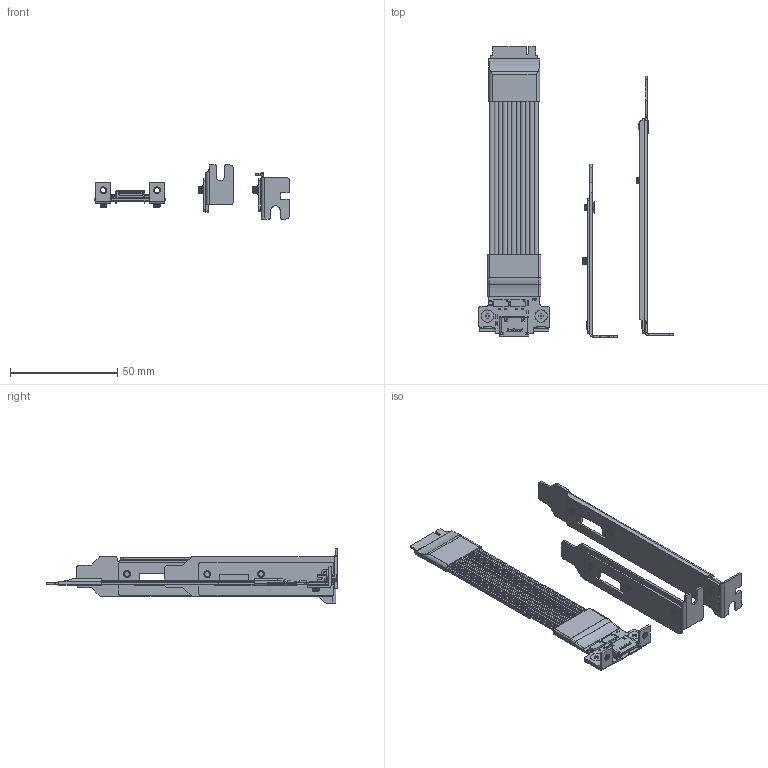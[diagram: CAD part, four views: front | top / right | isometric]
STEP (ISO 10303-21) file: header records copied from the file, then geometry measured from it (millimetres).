
FILE_DESCRIPTION(('Open CASCADE Model'),'2;1');
FILE_NAME('Open CASCADE Shape Model','2025-10-22T09:34:57',('Author'),( 'Open CASCADE'),'Open CASCADE STEP processor 7.5','Open CASCADE 7.5' ,'Unknown');
FILE_SCHEMA(('AUTOMOTIVE_DESIGN { 1 0 10303 214 1 1 1 1 }'));
Length unit declared in the file: millimetre
Products named in the file (303): PCB; Board; Open CASCADE STEP translator 7.5 1.1.1; R1; 0603_RES; Capsule; Encapsulation; TopCover; C14; C0603_060; C13; CN1; OcuLinkĸع; U2; 6408243920; Open CASCADE STEP translator 7.5 4.1; Body; Open CASCADE STEP translator 7.5 4.2.1; ball; U1; R6; R0201 AC0201; R5; R4; R3; R2; D1; User Library-SOD523F; C26; C0201_020; C25; C24; C23; C22; C21; C20; C19; C18; C17; C16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
Assembly tree (449 placements, depth 5):
  PCB
    Board
      Open CASCADE STEP translator 7.5 1.1.1
    R1
      0603_RES
        Capsule
        Encapsulation  x2
        TopCover
    C14
      C0603_060
      C0603_060
      C0603_060
    C13
      C0603_060
      C0603_060
      C0603_060
    CN1
      OcuLinkĸع  x2
      OcuLinkĸع
    U2
      6408243920
        Open CASCADE STEP translator 7.5 4.1
        Body
          Open CASCADE STEP translator 7.5 4.2.1
        ball  x49
    U1
      6408243920
        Open CASCADE STEP translator 7.5 4.1
        Body
          Open CASCADE STEP translator 7.5 4.2.1
        ball  x49
    R6
      R0201 AC0201
      R0201 AC0201
      R0201 AC0201
      R0201 AC0201
    R5
      R0201 AC0201
      R0201 AC0201
      R0201 AC0201
      R0201 AC0201
    R4
      R0201 AC0201
      R0201 AC0201
      R0201 AC0201
      R0201 AC0201
    R3
      R0201 AC0201
      R0201 AC0201
      R0201 AC0201
      R0201 AC0201
    R2
      R0201 AC0201
      R0201 AC0201
      R0201 AC0201
      R0201 AC0201
    D1
      User Library-SOD523F
    C26
      C0201_020
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Bounding box: 90.6 x 135.46 x 25.17 mm (x, y, z)
Volume: 9818.3 mm3; surface area: 42672.1 mm2
Topology: 456 solids, 458 shells, 7950 faces, 19229 edges, 11944 vertices
Faces by surface type: plane 5449, cylinder 1919, sphere 306, bspline 193, cone 47, extrusion 22, torus 14
Full cylindrical faces by diameter (mm): 0.2 x132, 0.254 x176, 0.362 x2, 0.63 x44, 1 x2, 2.356 x12, 2.927 x24, 3 x2, 3.2 x10, 3.3 x3, 4 x6, 4.5 x2
Entity records: 193017 total; most frequent: CARTESIAN_POINT 37989, DIRECTION 22708, ORIENTED_EDGE 22445, EDGE_CURVE 11223, VECTOR 8368, LINE 8346, AXIS2_PLACEMENT_3D 7170, VERTEX_POINT 7092
